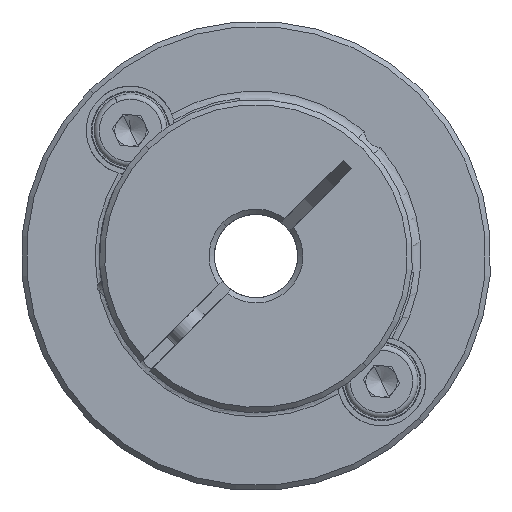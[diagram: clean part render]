
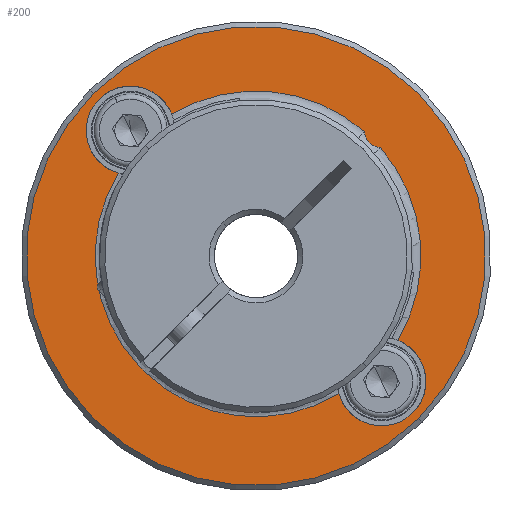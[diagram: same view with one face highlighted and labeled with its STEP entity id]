
A CAD part, front view. The second image highlights one B-rep face of the part: STEP entity #200.
In plain terms, the highlighted planar face has unit normal (0, -1, 0).
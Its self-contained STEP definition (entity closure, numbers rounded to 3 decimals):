
#5 = AXIS2_PLACEMENT_3D ( 'NONE', #10833, #411, #5086 ) ;
#17 = DIRECTION ( 'NONE',  ( -0.707, 0., 0.707 ) ) ;
#109 = AXIS2_PLACEMENT_3D ( 'NONE', #12077, #1378, #9076 ) ;
#123 = VERTEX_POINT ( 'NONE', #4172 ) ;
#200 = ADVANCED_FACE ( 'NONE', ( #454, #5576 ), #7319, .T. ) ;
#212 = ORIENTED_EDGE ( 'NONE', *, *, #2453, .T. ) ;
#285 = CARTESIAN_POINT ( 'NONE',  ( -13.145, 21.413, 32.757 ) ) ;
#321 = CARTESIAN_POINT ( 'NONE',  ( -2.531, 21.413, 43.914 ) ) ;
#369 = EDGE_CURVE ( 'NONE', #8648, #7342, #1797, .T. ) ;
#411 = DIRECTION ( 'NONE',  ( 0., 1., 0. ) ) ;
#450 = DIRECTION ( 'NONE',  ( -0.707, 0., 0.707 ) ) ;
#454 = FACE_BOUND ( 'NONE', #4663, .T. ) ;
#464 = EDGE_CURVE ( 'NONE', #4397, #9714, #2682, .T. ) ;
#858 = ORIENTED_EDGE ( 'NONE', *, *, #464, .T. ) ;
#899 = DIRECTION ( 'NONE',  ( -0.707, 0., 0.707 ) ) ;
#963 = VERTEX_POINT ( 'NONE', #5449 ) ;
#964 = EDGE_CURVE ( 'NONE', #3809, #3952, #5311, .T. ) ;
#1058 = CARTESIAN_POINT ( 'NONE',  ( 11.054, 21.413, 35.845 ) ) ;
#1178 = ORIENTED_EDGE ( 'NONE', *, *, #369, .T. ) ;
#1241 = AXIS2_PLACEMENT_3D ( 'NONE', #8908, #2237, #9808 ) ;
#1254 = DIRECTION ( 'NONE',  ( 0., -1., 0. ) ) ;
#1378 = DIRECTION ( 'NONE',  ( 0., 1., 0. ) ) ;
#1480 = CARTESIAN_POINT ( 'NONE',  ( -13.688, 21.413, 33.299 ) ) ;
#1525 = CARTESIAN_POINT ( 'NONE',  ( -13.283, 21.413, 32.981 ) ) ;
#1555 = DIRECTION ( 'NONE',  ( 0., -1., 0. ) ) ;
#1797 = CIRCLE ( 'NONE', #6887, 4.25 ) ;
#2237 = DIRECTION ( 'NONE',  ( 0., 1., 0. ) ) ;
#2444 = DIRECTION ( 'NONE',  ( -0.707, 0., 0.707 ) ) ;
#2453 = EDGE_CURVE ( 'NONE', #4529, #123, #9260, .T. ) ;
#2474 = EDGE_CURVE ( 'NONE', #963, #11774, #9564, .T. ) ;
#2682 = CIRCLE ( 'NONE', #1241, 4.25 ) ;
#2862 = CIRCLE ( 'NONE', #4516, 15.4 ) ;
#3179 = CARTESIAN_POINT ( 'NONE',  ( 9.49, 21.413, 55.935 ) ) ;
#3233 = DIRECTION ( 'NONE',  ( 0., 1., 0. ) ) ;
#3498 = CARTESIAN_POINT ( 'NONE',  ( 9.49, 21.413, 55.935 ) ) ;
#3585 = CARTESIAN_POINT ( 'NONE',  ( -15.728, 21.413, 51.851 ) ) ;
#3734 = DIRECTION ( 'NONE',  ( 0., 1., 0. ) ) ;
#3808 = EDGE_CURVE ( 'NONE', #3952, #10971, #4712, .T. ) ;
#3809 = VERTEX_POINT ( 'NONE', #285 ) ;
#3828 = CARTESIAN_POINT ( 'NONE',  ( -14.552, 21.413, 55.935 ) ) ;
#3952 = VERTEX_POINT ( 'NONE', #6300 ) ;
#4172 = CARTESIAN_POINT ( 'NONE',  ( 9.386, 21.413, 54.288 ) ) ;
#4303 = CIRCLE ( 'NONE', #4925, 4.25 ) ;
#4304 = DIRECTION ( 'NONE',  ( 0., -1., 0. ) ) ;
#4397 = VERTEX_POINT ( 'NONE', #1058 ) ;
#4516 = AXIS2_PLACEMENT_3D ( 'NONE', #5613, #3734, #12288 ) ;
#4529 = VERTEX_POINT ( 'NONE', #10907 ) ;
#4557 = ORIENTED_EDGE ( 'NONE', *, *, #6835, .T. ) ;
#4663 = EDGE_LOOP ( 'NONE', ( #212, #7952, #858, #11459, #10632, #5673, #8692, #4557, #1178, #6559 ) ) ;
#4672 = AXIS2_PLACEMENT_3D ( 'NONE', #9966, #1254, #7977 ) ;
#4712 = CIRCLE ( 'NONE', #5, 15.4 ) ;
#4925 = AXIS2_PLACEMENT_3D ( 'NONE', #11549, #11591, #6899 ) ;
#5086 = DIRECTION ( 'NONE',  ( -0.707, 0., 0.707 ) ) ;
#5311 = B_SPLINE_CURVE_WITH_KNOTS ( 'NONE', 3,
 ( #12135, #1525, #7248, #1480 ),
 .UNSPECIFIED., .F., .F.,
 ( 4, 4 ),
 ( 0., 1. ),
 .UNSPECIFIED. ) ;
#5370 = CIRCLE ( 'NONE', #4672, 22. ) ;
#5449 = CARTESIAN_POINT ( 'NONE',  ( -18.087, 21.413, 59.47 ) ) ;
#5492 = CARTESIAN_POINT ( 'NONE',  ( -17.557, 21.413, 58.94 ) ) ;
#5576 = FACE_OUTER_BOUND ( 'NONE', #11207, .T. ) ;
#5595 = DIRECTION ( 'NONE',  ( 0., 1., 0. ) ) ;
#5608 = AXIS2_PLACEMENT_3D ( 'NONE', #3498, #1555, #10151 ) ;
#5613 = CARTESIAN_POINT ( 'NONE',  ( -2.531, 21.413, 43.914 ) ) ;
#5673 = ORIENTED_EDGE ( 'NONE', *, *, #964, .T. ) ;
#6080 = EDGE_CURVE ( 'NONE', #7342, #4529, #6767, .T. ) ;
#6170 = CIRCLE ( 'NONE', #109, 4.25 ) ;
#6300 = CARTESIAN_POINT ( 'NONE',  ( -13.688, 21.413, 33.299 ) ) ;
#6491 = EDGE_CURVE ( 'NONE', #9743, #3809, #2862, .T. ) ;
#6559 = ORIENTED_EDGE ( 'NONE', *, *, #6080, .T. ) ;
#6767 = CIRCLE ( 'NONE', #7105, 15.8 ) ;
#6835 = EDGE_CURVE ( 'NONE', #10971, #8648, #6170, .T. ) ;
#6887 = AXIS2_PLACEMENT_3D ( 'NONE', #3828, #11513, #17 ) ;
#6899 = DIRECTION ( 'NONE',  ( -0.707, 0., 0.707 ) ) ;
#7105 = AXIS2_PLACEMENT_3D ( 'NONE', #9745, #5595, #899 ) ;
#7227 = CARTESIAN_POINT ( 'NONE',  ( -2.531, 21.413, 43.914 ) ) ;
#7248 = CARTESIAN_POINT ( 'NONE',  ( -13.464, 21.413, 33.162 ) ) ;
#7319 = PLANE ( 'NONE',  #5608 ) ;
#7342 = VERTEX_POINT ( 'NONE', #10244 ) ;
#7459 = AXIS2_PLACEMENT_3D ( 'NONE', #3179, #4304, #10035 ) ;
#7674 = CIRCLE ( 'NONE', #8727, 15.8 ) ;
#7952 = ORIENTED_EDGE ( 'NONE', *, *, #8290, .T. ) ;
#7977 = DIRECTION ( 'NONE',  ( -0.707, 0., 0.707 ) ) ;
#8290 = EDGE_CURVE ( 'NONE', #123, #4397, #7674, .T. ) ;
#8648 = VERTEX_POINT ( 'NONE', #5492 ) ;
#8692 = ORIENTED_EDGE ( 'NONE', *, *, #3808, .T. ) ;
#8727 = AXIS2_PLACEMENT_3D ( 'NONE', #7227, #3233, #2444 ) ;
#8908 = CARTESIAN_POINT ( 'NONE',  ( 9.49, 21.413, 31.893 ) ) ;
#8977 = DIRECTION ( 'NONE',  ( 0., -1., 0. ) ) ;
#9076 = DIRECTION ( 'NONE',  ( -0.707, 0., 0.707 ) ) ;
#9260 = CIRCLE ( 'NONE', #7459, 1.65 ) ;
#9564 = CIRCLE ( 'NONE', #10695, 22. ) ;
#9714 = VERTEX_POINT ( 'NONE', #10291 ) ;
#9743 = VERTEX_POINT ( 'NONE', #10253 ) ;
#9745 = CARTESIAN_POINT ( 'NONE',  ( -2.531, 21.413, 43.914 ) ) ;
#9808 = DIRECTION ( 'NONE',  ( -0.707, 0., 0.707 ) ) ;
#9966 = CARTESIAN_POINT ( 'NONE',  ( -2.531, 21.413, 43.914 ) ) ;
#10035 = DIRECTION ( 'NONE',  ( 1., 0., 0. ) ) ;
#10151 = DIRECTION ( 'NONE',  ( 0.145, 0., -0.989 ) ) ;
#10244 = CARTESIAN_POINT ( 'NONE',  ( -10.6, 21.413, 57.498 ) ) ;
#10253 = CARTESIAN_POINT ( 'NONE',  ( 5.406, 21.413, 30.717 ) ) ;
#10291 = CARTESIAN_POINT ( 'NONE',  ( 12.495, 21.413, 28.888 ) ) ;
#10393 = ORIENTED_EDGE ( 'NONE', *, *, #2474, .T. ) ;
#10632 = ORIENTED_EDGE ( 'NONE', *, *, #6491, .T. ) ;
#10695 = AXIS2_PLACEMENT_3D ( 'NONE', #321, #8977, #450 ) ;
#10833 = CARTESIAN_POINT ( 'NONE',  ( -2.531, 21.413, 43.914 ) ) ;
#10907 = CARTESIAN_POINT ( 'NONE',  ( 7.843, 21.413, 55.831 ) ) ;
#10971 = VERTEX_POINT ( 'NONE', #3585 ) ;
#11207 = EDGE_LOOP ( 'NONE', ( #11555, #10393 ) ) ;
#11459 = ORIENTED_EDGE ( 'NONE', *, *, #11863, .T. ) ;
#11466 = CARTESIAN_POINT ( 'NONE',  ( 13.026, 21.413, 28.358 ) ) ;
#11513 = DIRECTION ( 'NONE',  ( 0., 1., 0. ) ) ;
#11549 = CARTESIAN_POINT ( 'NONE',  ( 9.49, 21.413, 31.893 ) ) ;
#11555 = ORIENTED_EDGE ( 'NONE', *, *, #11971, .T. ) ;
#11591 = DIRECTION ( 'NONE',  ( 0., 1., 0. ) ) ;
#11774 = VERTEX_POINT ( 'NONE', #11466 ) ;
#11863 = EDGE_CURVE ( 'NONE', #9714, #9743, #4303, .T. ) ;
#11971 = EDGE_CURVE ( 'NONE', #11774, #963, #5370, .T. ) ;
#12077 = CARTESIAN_POINT ( 'NONE',  ( -14.552, 21.413, 55.935 ) ) ;
#12135 = CARTESIAN_POINT ( 'NONE',  ( -13.145, 21.413, 32.757 ) ) ;
#12288 = DIRECTION ( 'NONE',  ( -0.707, 0., 0.707 ) ) ;
